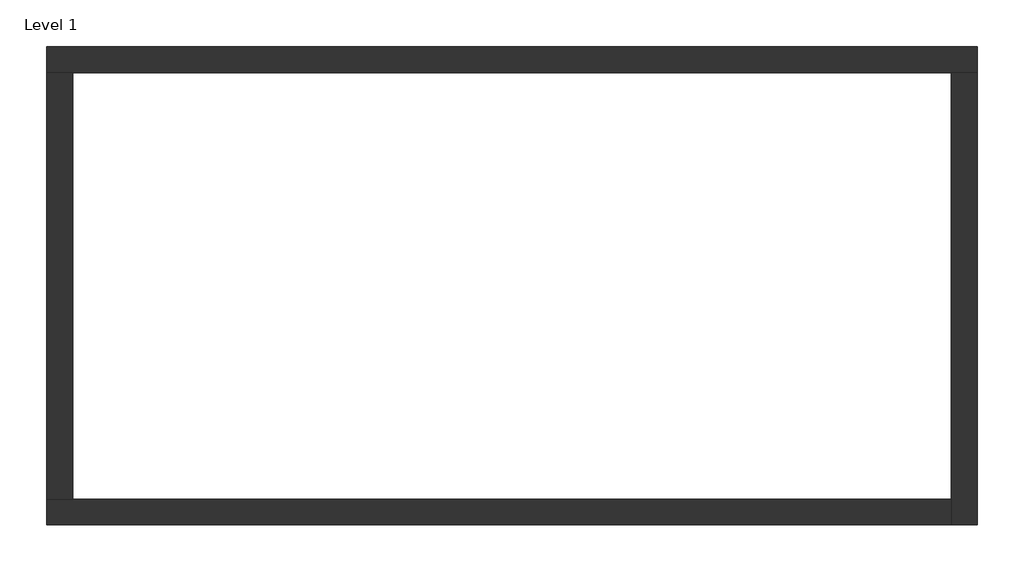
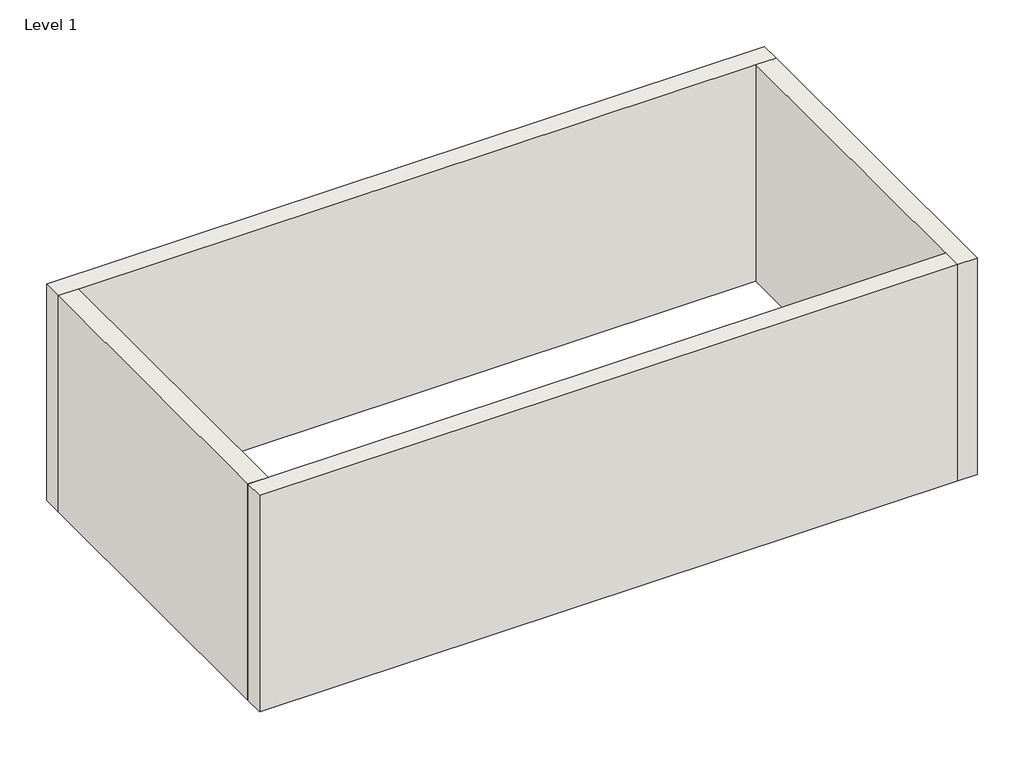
# One storey: 4 walls.
"""IFC4 building model written with IfcOpenShell, lengths in millimetres."""

from ifc_helpers import new_model, si_unit, origin, origin_with_axes, place, context, project, spatial, polyline, outline, extrude, faceted_brep, element, save

model = new_model("IFC4")

# Units and contexts
model_context = context("Model", 3, world=origin())
ifc_project = project(units=[si_unit("LENGTHUNIT", "METRE", prefix="MILLI")], contexts=[model_context])

# Site, building, storey
site = spatial("IfcSite", under=ifc_project)
building = spatial("IfcBuilding", under=site)
storey = spatial("IfcBuildingStorey", under=building, Name="Level 1", Elevation=0.0)

# Walls
placement = place(None, origin())
element("IfcWall", 1, ObjectType="Exterior - Brick on Mtl. Stud", at=placement, inside=storey, context=model_context, shape_type="Brep", body=[
    faceted_brep([(-15285.3416203, 2406.1188386, 0.0), (-14935.3416203, 2406.1188386, 0.0), (-3093.3416203, 2406.1188386, 0.0), (-2743.3416203, 2406.1188386, 0.0), (-2743.3416203, 2406.1188386, 4000.0), (-3093.3416203, 2406.1188386, 4000.0), (-14935.3416203, 2406.1188386, 4000.0), (-15285.3416203, 2406.1188386, 4000.0), (-15285.3416203, 2756.1188386, 0.0), (-15285.3416203, 2756.1188386, 4000.0), (-2743.3416203, 2756.1188386, 4000.0), (-2743.3416203, 2756.1188386, 0.0)], [[[0, 1, 2, 3, 4, 5, 6, 7]], [[8, 9, 10, 11]], [[3, 2, 1, 0, 8, 11]], [[7, 6, 5, 4, 10, 9]], [[4, 3, 11, 10]], [[0, 7, 9, 8]]]),
])
element("IfcWall", 2, ObjectType="Exterior - Brick on Mtl. Stud", at=placement, inside=storey, context=model_context, shape_type="Brep", body=[
    faceted_brep([(-3093.3416203, 2406.1188386, 0.0), (-3093.3416203, -3339.8811614, 0.0), (-3093.3416203, -3689.8811614, 0.0), (-3093.3416203, -3689.8811614, 4000.0), (-3093.3416203, -3339.8811614, 4000.0), (-3093.3416203, 2406.1188386, 4000.0), (-2743.3416203, 2406.1188386, 0.0), (-2743.3416203, 2406.1188386, 4000.0), (-2743.3416203, -3689.8811614, 4000.0), (-2743.3416203, -3689.8811614, 0.0)], [[[0, 1, 2, 3, 4, 5]], [[6, 7, 8, 9]], [[2, 1, 0, 6, 9]], [[5, 4, 3, 8, 7]], [[0, 5, 7, 6]], [[3, 2, 9, 8]]]),
])
element("IfcWall", 3, ObjectType="Exterior - Brick on Mtl. Stud", at=placement, inside=storey, context=model_context, shape_type="Brep", body=[
    faceted_brep([(-3093.3416203, -3339.8811614, 0.0), (-14935.3416203, -3339.8811614, 0.0), (-15285.3416203, -3339.8811614, 0.0), (-15285.3416203, -3339.8811614, 4000.0), (-14935.3416203, -3339.8811614, 4000.0), (-3093.3416203, -3339.8811614, 4000.0), (-3093.3416203, -3689.8811614, 0.0), (-3093.3416203, -3689.8811614, 4000.0), (-15285.3416203, -3689.8811614, 4000.0), (-15285.3416203, -3689.8811614, 0.0)], [[[0, 1, 2, 3, 4, 5]], [[6, 7, 8, 9]], [[2, 1, 0, 6, 9]], [[5, 4, 3, 8, 7]], [[0, 5, 7, 6]], [[3, 2, 9, 8]]]),
])
element("IfcWall", 4, ObjectType="Exterior - Brick on Mtl. Stud", at=placement, inside=storey, context=model_context, shape_type="SweptSolid", body=[
    extrude(outline(polyline([(-14935.3416203, 2406.1188386), (-14935.3416203, -3339.8811614), (-15285.3416203, -3339.8811614), (-15285.3416203, 2406.1188386), (-14935.3416203, 2406.1188386)])), origin_with_axes(), (0.0, 0.0, 1.0), 4000.0),
])

save(model, "model.ifc")
